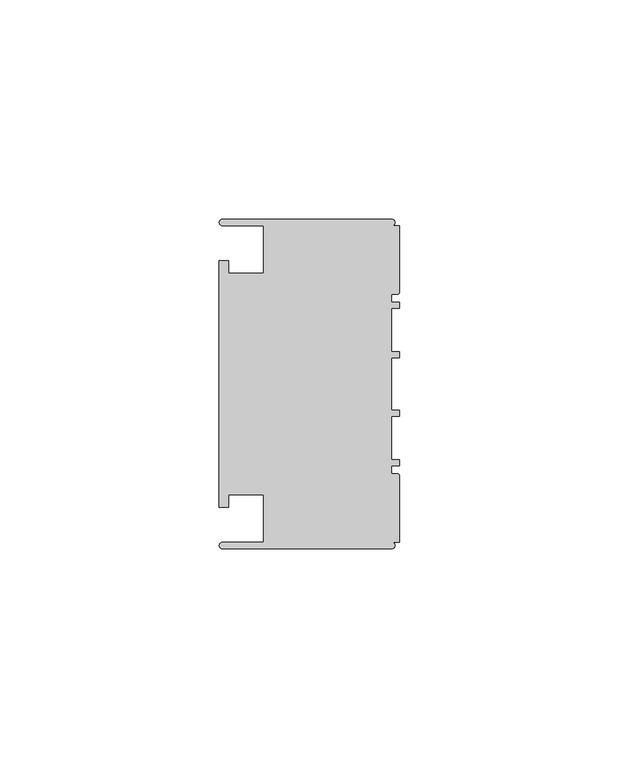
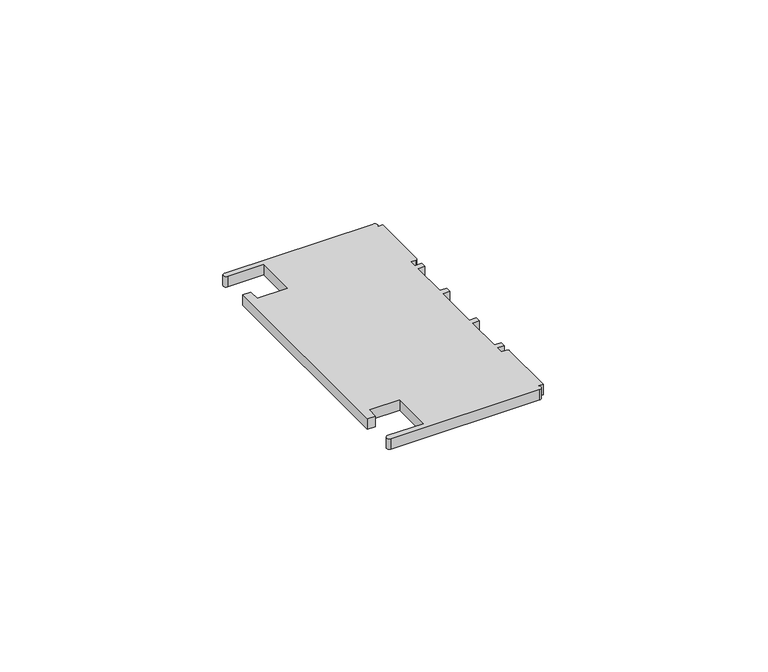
"""IFC4 building model written with IfcOpenShell, lengths in millimetres: member geometry, Прямоугольный импост : 3-AMG-2-Профиль 40Х75 Низ Л."""

from ifc_helpers import new_model, si_unit, point, frame, frame_2d, origin, place, context, project, spatial, polyline, circle_curve, trimmed, segment, composite_curve, outline, extrude, source, transform, mapped, element, save


def member_34305b3e(model_context):
    return source(origin(), model_context, "Body", "SweptSolid", [
        extrude(outline(composite_curve([segment(polyline([(-1.7, -37.5), (-40.4, -37.5)]), True, "CONTINUOUS"), segment(trimmed(circle_curve(frame_2d((-40.4, -36.8)), 0.7), [point((-40.4, -37.5))], [point((-40.4, -36.1))], False, "CARTESIAN"), True, "CONTINUOUS"), segment(polyline([(-40.4, -36.1), (-31.0, -36.1), (-31.0, -25.25), (-39.0, -25.25), (-39.0, -28.1), (-41.1, -28.1), (-41.1, 28.1), (-39.0, 28.1), (-39.0, 25.25), (-31.0, 25.25), (-31.0, 36.1), (-40.4, 36.1)]), True, "CONTINUOUS"), segment(trimmed(circle_curve(frame_2d((-40.4, 36.8)), 0.7), [point((-40.4, 36.1))], [point((-40.4, 37.5))], False, "CARTESIAN"), True, "CONTINUOUS"), segment(polyline([(-40.4, 37.5), (-1.7, 37.5)]), True, "CONTINUOUS"), segment(trimmed(circle_curve(frame_2d((-1.7, 36.8)), 0.7), [point((-1.7, 37.5))], [point((-1.7, 36.1))], False, "CARTESIAN"), True, "CONTINUOUS"), segment(polyline([(-1.7, 36.1), (0.0, 36.1), (0.0, 20.95)]), True, "CONTINUOUS"), segment(trimmed(circle_curve(frame_2d((-0.5, 20.95)), 0.5), [point((0.0, 20.95))], [point((-0.5, 20.45))], False, "CARTESIAN"), True, "CONTINUOUS"), segment(polyline([(-0.5, 20.45), (-1.8, 20.45), (-1.8, 18.65), (0.0, 18.65), (0.0, 17.25), (-1.8, 17.25), (-1.8, 7.4), (0.0, 7.4), (0.0, 6.0), (-1.8, 6.0), (-1.8, -6.0), (0.0, -6.0), (0.0, -7.4), (-1.8, -7.4), (-1.8, -17.25), (0.0, -17.25), (0.0, -18.65), (-1.8, -18.65), (-1.8, -20.45), (-0.5, -20.45)]), True, "CONTINUOUS"), segment(trimmed(circle_curve(frame_2d((-0.5, -20.95)), 0.5), [point((-0.5, -20.45))], [point((0.0, -20.95))], False, "CARTESIAN"), True, "CONTINUOUS"), segment(polyline([(0.0, -20.95), (0.0, -36.1), (-1.7, -36.1)]), True, "CONTINUOUS"), segment(trimmed(circle_curve(frame_2d((-1.7, -36.8)), 0.7), [point((-1.7, -36.1))], [point((-1.7, -37.5))], False, "CARTESIAN"), True, "CONTINUOUS")], self_intersect=False)), frame((0.0, 0.0, -2.8899758), z_axis=(0.0, 0.0, 1.0), x_axis=(1.0, 0.0, 0.0)), (0.0, 0.0, 1.0), 2.8899758),
    ])


if __name__ == "__main__":
    model = new_model("IFC4")
    model_context = context("Model", 3, world=origin())
    ifc_project = project(units=[si_unit("LENGTHUNIT", "METRE", prefix="MILLI")], contexts=[model_context])
    site = spatial("IfcSite", under=ifc_project)
    building = spatial("IfcBuilding", under=site)
    placement = place(None, origin())
    member_shape = member_34305b3e(model_context)
    element("IfcMember", 1, ObjectType="Прямоугольный импост : 3-AMG-2-Профиль 40Х75 Низ Л", at=placement, inside=building, context=model_context, shape_type="MappedRepresentation", body=[
        mapped(member_shape, transform((0.0, 0.0, 0.0), x_axis=(1.0, 0.0, 0.0), y_axis=(0.0, 1.0, 0.0), z_axis=(0.0, 0.0, 1.0))),
    ])
    save(model, "model.ifc")
